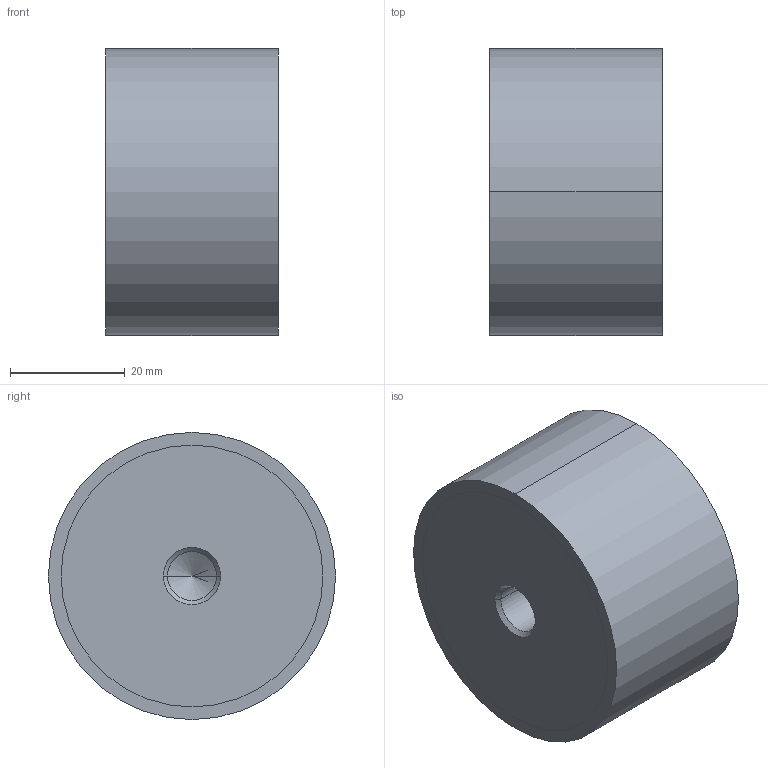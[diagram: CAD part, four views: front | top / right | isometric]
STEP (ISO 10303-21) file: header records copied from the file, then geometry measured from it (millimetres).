
FILE_DESCRIPTION (( 'STEP AP214' ), '1' );
FILE_NAME ('451-50-30-M10-EE-70.step', '2020-03-05T09:13:27', ( '' ), ( '' ), 'SwSTEP 2.0', 'SolidWorks 2019', '' );
FILE_SCHEMA (( 'AUTOMOTIVE_DESIGN' ));
Length unit declared in the file: millimetre
Products named in the file (1): 451-50-30-M10-EE-70
Bounding box: 30 x 50 x 50 mm (x, y, z)
Volume: 57626.4 mm3; surface area: 9173 mm2
Topology: 1 solids, 1 shells, 22 faces, 46 edges, 26 vertices
Faces by surface type: cylinder 10, cone 8, plane 4
Entity records: 684 total; most frequent: DIRECTION 112, CARTESIAN_POINT 91, ORIENTED_EDGE 84, AXIS2_PLACEMENT_3D 47, EDGE_CURVE 42, VERTEX_POINT 26, EDGE_LOOP 26, CIRCLE 24
